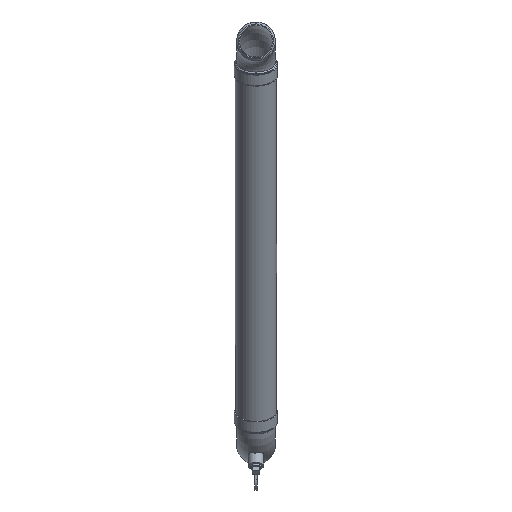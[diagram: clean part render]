
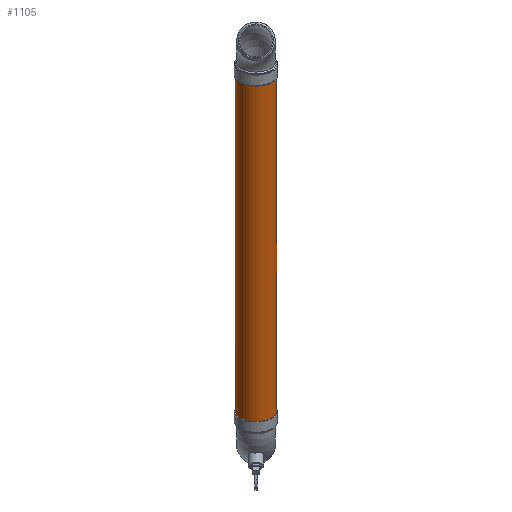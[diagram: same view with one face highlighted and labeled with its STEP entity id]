
A CAD part, front view. The second image highlights one B-rep face of the part: STEP entity #1105.
In plain terms, the highlighted cylindrical face has radius 25.756 mm (diameter 51.511 mm), a full revolution.
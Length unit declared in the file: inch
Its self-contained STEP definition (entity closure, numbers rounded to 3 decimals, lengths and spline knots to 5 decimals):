
#170=FACE_BOUND('',#409,.T.);
#212=CYLINDRICAL_SURFACE('',#1253,1.014);
#280=FACE_OUTER_BOUND('',#408,.T.);
#408=EDGE_LOOP('',(#904));
#409=EDGE_LOOP('',(#905));
#506=CIRCLE('',#1254,1.014);
#507=CIRCLE('',#1255,1.014);
#605=VERTEX_POINT('',#1950);
#606=VERTEX_POINT('',#1952);
#713=EDGE_CURVE('',#605,#605,#506,.T.);
#714=EDGE_CURVE('',#606,#606,#507,.T.);
#904=ORIENTED_EDGE('',*,*,#713,.T.);
#905=ORIENTED_EDGE('',*,*,#714,.F.);
#1105=ADVANCED_FACE('',(#280,#170),#212,.T.);
#1253=AXIS2_PLACEMENT_3D('',#1949,#1542,#1543);
#1254=AXIS2_PLACEMENT_3D('',#1951,#1544,#1545);
#1255=AXIS2_PLACEMENT_3D('',#1953,#1546,#1547);
#1542=DIRECTION('center_axis',(0.,-0.5,0.866));
#1543=DIRECTION('ref_axis',(-0.006,-0.866,-0.5));
#1544=DIRECTION('center_axis',(0.,0.5,-0.866));
#1545=DIRECTION('ref_axis',(-0.006,-0.866,-0.5));
#1546=DIRECTION('center_axis',(0.,0.5,-0.866));
#1547=DIRECTION('ref_axis',(-0.006,-0.866,-0.5));
#1949=CARTESIAN_POINT('Origin',(0.,-1.94856,
-18.675));
#1950=CARTESIAN_POINT('',(0.00616,-11.19542,-0.63099));
#1951=CARTESIAN_POINT('Origin',(0.,-12.07356,
-1.13799));
#1952=CARTESIAN_POINT('',(0.00616,-1.07042,-18.16801));
#1953=CARTESIAN_POINT('Origin',(0.,-1.94856,
-18.675));
